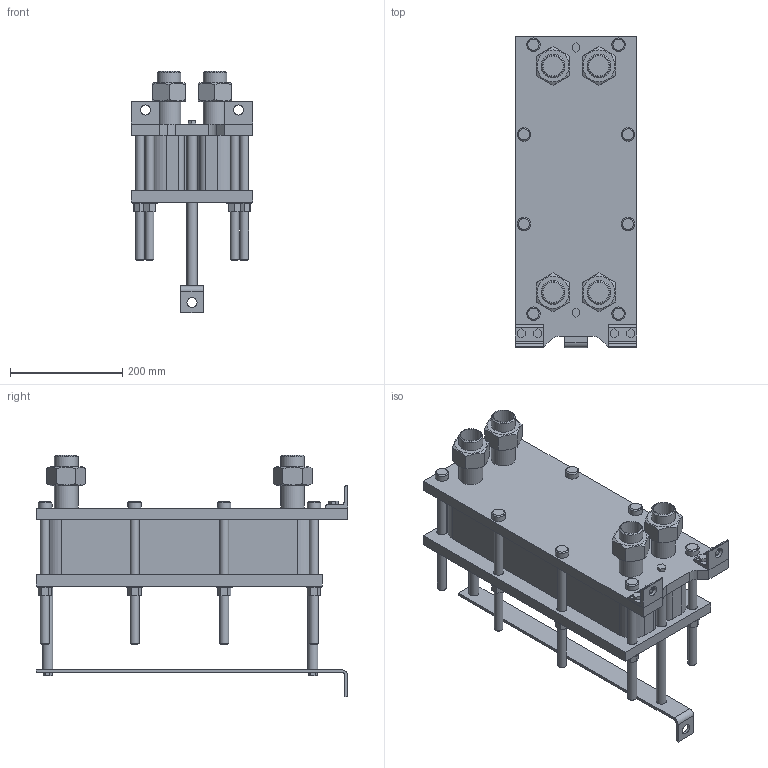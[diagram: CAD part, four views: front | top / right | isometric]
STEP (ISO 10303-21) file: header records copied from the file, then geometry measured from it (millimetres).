
FILE_DESCRIPTION(/* description */ (''),/* implementation_level */ '2;1');
FILE_NAME(/* name */ 'C:\Users\zhuro\Desktop\ENCO\TO\ЭН-004\ЭН-0,5-004-32-1.stp',/* time_stamp */ '2022-06-06T10:45:46+03:00',/* author */ ('zhuro'),/* organization */ (''),/* preprocessor_version */ 'ST-DEVELOPER v18.1',/* originating_system */ 'Autodesk Inventor 2022',/* authorisation */ '');
FILE_SCHEMA (('AP203_CONFIGURATION_CONTROLLED_3D_DESIGN_OF_MECHANICAL_PARTS_AND_ASSEMBLIES_MIM_LF { 1 0 10303 203 3 1 4 }','AUTOMOTIVE_DESIGN { 1 0 10303 214 3 1 1 }'));
Length unit declared in the file: millimetre
Products named in the file (1): ЭН-0,5-004-32-1
Bounding box: 216 x 555 x 430.6 mm (x, y, z)
Volume: 12955427.7 mm3; surface area: 1173855.3 mm2
Topology: 40 solids, 40 shells, 403 faces, 865 edges, 574 vertices
Faces by surface type: plane 272, cylinder 103, cone 28
Full cylindrical faces by diameter (mm): 10 x4, 16 x16, 18 x29, 20 x2, 24 x8, 28 x8, 36.3 x5, 42.3 x9
Entity records: 11137 total; most frequent: CARTESIAN_POINT 1939, DIRECTION 1879, ORIENTED_EDGE 1730, EDGE_CURVE 865, AXIS2_PLACEMENT_3D 658, VERTEX_POINT 574, LINE 563, VECTOR 563
